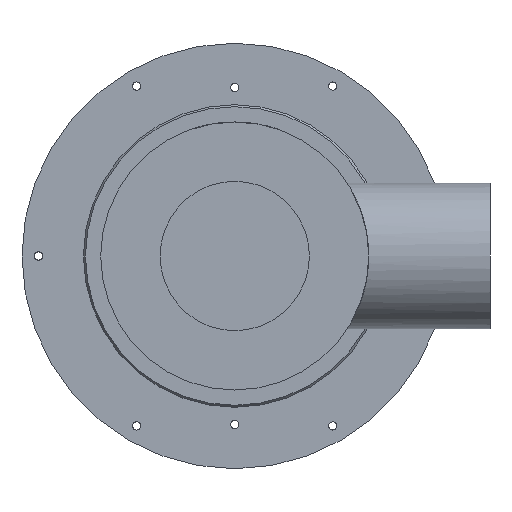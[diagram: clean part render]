
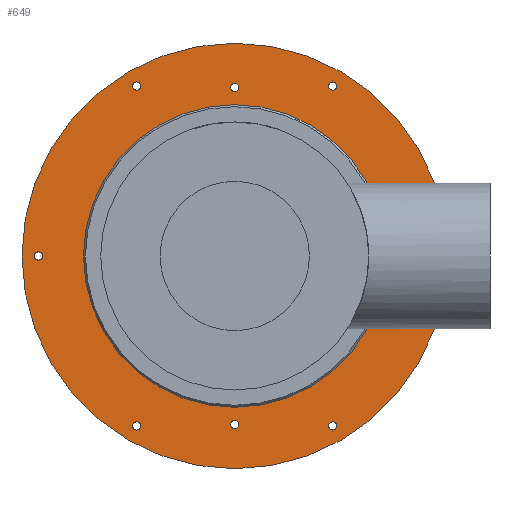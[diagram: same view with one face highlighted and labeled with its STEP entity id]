
A CAD part, front view. The second image highlights one B-rep face of the part: STEP entity #649.
In plain terms, the highlighted planar face has unit normal (0, -1, 0).
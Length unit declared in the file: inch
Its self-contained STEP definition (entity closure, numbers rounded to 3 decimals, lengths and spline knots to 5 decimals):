
#212=CARTESIAN_POINT('',(4.12008,1.04331,0.));
#213=VERTEX_POINT('',#212);
#214=CARTESIAN_POINT('',(4.03543,1.04331,0.0));
#215=DIRECTION('',(0.0,1.0,0.0));
#216=DIRECTION('',(-1.0,0.0,0.0));
#217=AXIS2_PLACEMENT_3D('',#214,#215,#216);
#218=CIRCLE('',#217,0.08465);
#219=EDGE_CURVE('',#213,#213,#218,.T.);
#261=CARTESIAN_POINT('',(2.10236,1.04331,3.49478));
#262=VERTEX_POINT('',#261);
#263=CARTESIAN_POINT('',(2.01772,1.04331,3.49478));
#264=DIRECTION('',(0.0,1.0,0.0));
#265=DIRECTION('',(-1.0,0.0,0.0));
#266=AXIS2_PLACEMENT_3D('',#263,#264,#265);
#267=CIRCLE('',#266,0.08465);
#268=EDGE_CURVE('',#262,#262,#267,.T.);
#310=CARTESIAN_POINT('',(0.08465,1.04331,3.46457));
#311=VERTEX_POINT('',#310);
#312=CARTESIAN_POINT('',(0.0,1.04331,3.46457));
#313=DIRECTION('',(0.0,1.0,0.0));
#314=DIRECTION('',(-1.0,0.0,0.0));
#315=AXIS2_PLACEMENT_3D('',#312,#313,#314);
#316=CIRCLE('',#315,0.08465);
#317=EDGE_CURVE('',#311,#311,#316,.T.);
#359=CARTESIAN_POINT('',(-1.93307,1.04331,3.49478));
#360=VERTEX_POINT('',#359);
#361=CARTESIAN_POINT('',(-2.01772,1.04331,3.49478));
#362=DIRECTION('',(0.0,1.0,0.0));
#363=DIRECTION('',(-1.0,0.0,0.0));
#364=AXIS2_PLACEMENT_3D('',#361,#362,#363);
#365=CIRCLE('',#364,0.08465);
#366=EDGE_CURVE('',#360,#360,#365,.T.);
#408=CARTESIAN_POINT('',(0.08465,1.04331,-3.46457));
#409=VERTEX_POINT('',#408);
#410=CARTESIAN_POINT('',(0.0,1.04331,-3.46457));
#411=DIRECTION('',(0.0,1.0,0.0));
#412=DIRECTION('',(-1.0,0.0,0.0));
#413=AXIS2_PLACEMENT_3D('',#410,#411,#412);
#414=CIRCLE('',#413,0.08465);
#415=EDGE_CURVE('',#409,#409,#414,.T.);
#457=CARTESIAN_POINT('',(-1.93307,1.04331,-3.49478));
#458=VERTEX_POINT('',#457);
#459=CARTESIAN_POINT('',(-2.01772,1.04331,-3.49478));
#460=DIRECTION('',(0.0,1.0,0.0));
#461=DIRECTION('',(-1.0,0.0,0.0));
#462=AXIS2_PLACEMENT_3D('',#459,#460,#461);
#463=CIRCLE('',#462,0.08465);
#464=EDGE_CURVE('',#458,#458,#463,.T.);
#506=CARTESIAN_POINT('',(-3.95079,1.04331,0.));
#507=VERTEX_POINT('',#506);
#508=CARTESIAN_POINT('',(-4.03543,1.04331,0.0));
#509=DIRECTION('',(0.0,1.0,0.0));
#510=DIRECTION('',(-1.0,0.0,0.0));
#511=AXIS2_PLACEMENT_3D('',#508,#509,#510);
#512=CIRCLE('',#511,0.08465);
#513=EDGE_CURVE('',#507,#507,#512,.T.);
#555=CARTESIAN_POINT('',(2.10236,1.04331,-3.49478));
#556=VERTEX_POINT('',#555);
#557=CARTESIAN_POINT('',(2.01772,1.04331,-3.49478));
#558=DIRECTION('',(0.0,1.0,0.0));
#559=DIRECTION('',(-1.0,0.0,0.0));
#560=AXIS2_PLACEMENT_3D('',#557,#558,#559);
#561=CIRCLE('',#560,0.08465);
#562=EDGE_CURVE('',#556,#556,#561,.T.);
#583=CARTESIAN_POINT('',(4.375,1.04331,0.0));
#584=VERTEX_POINT('',#583);
#585=CARTESIAN_POINT('',(0.0,1.04331,0.0));
#586=DIRECTION('',(0.0,-1.0,0.0));
#587=DIRECTION('',(1.0,0.0,0.0));
#588=AXIS2_PLACEMENT_3D('',#585,#586,#587);
#589=CIRCLE('',#588,4.375);
#590=EDGE_CURVE('',#584,#584,#589,.T.);
#606=CARTESIAN_POINT('',(3.74301,1.04331,0.0));
#607=DIRECTION('',(0.0,-1.0,0.0));
#608=DIRECTION('',(0.0,0.0,-1.0));
#609=AXIS2_PLACEMENT_3D('',#606,#607,#608);
#610=PLANE('',#609);
#611=ORIENTED_EDGE('',*,*,#590,.T.);
#612=EDGE_LOOP('',(#611));
#613=FACE_OUTER_BOUND('',#612,.T.);
#614=ORIENTED_EDGE('',*,*,#219,.T.);
#615=EDGE_LOOP('',(#614));
#616=FACE_BOUND('',#615,.T.);
#617=ORIENTED_EDGE('',*,*,#268,.T.);
#618=EDGE_LOOP('',(#617));
#619=FACE_BOUND('',#618,.T.);
#620=ORIENTED_EDGE('',*,*,#317,.T.);
#621=EDGE_LOOP('',(#620));
#622=FACE_BOUND('',#621,.T.);
#623=ORIENTED_EDGE('',*,*,#366,.T.);
#624=EDGE_LOOP('',(#623));
#625=FACE_BOUND('',#624,.T.);
#626=ORIENTED_EDGE('',*,*,#415,.T.);
#627=EDGE_LOOP('',(#626));
#628=FACE_BOUND('',#627,.T.);
#629=ORIENTED_EDGE('',*,*,#464,.T.);
#630=EDGE_LOOP('',(#629));
#631=FACE_BOUND('',#630,.T.);
#632=ORIENTED_EDGE('',*,*,#513,.T.);
#633=EDGE_LOOP('',(#632));
#634=FACE_BOUND('',#633,.T.);
#635=ORIENTED_EDGE('',*,*,#562,.T.);
#636=EDGE_LOOP('',(#635));
#637=FACE_BOUND('',#636,.T.);
#638=CARTESIAN_POINT('',(3.11103,1.04331,0.0));
#639=VERTEX_POINT('',#638);
#640=CARTESIAN_POINT('',(0.0,1.04331,0.0));
#641=DIRECTION('',(0.0,-1.0,0.0));
#642=DIRECTION('',(1.0,0.0,0.0));
#643=AXIS2_PLACEMENT_3D('',#640,#641,#642);
#644=CIRCLE('',#643,3.11103);
#645=EDGE_CURVE('',#639,#639,#644,.T.);
#646=ORIENTED_EDGE('',*,*,#645,.F.);
#647=EDGE_LOOP('',(#646));
#648=FACE_BOUND('',#647,.T.);
#649=ADVANCED_FACE('',(#613,#616,#619,#622,#625,#628,#631,#634,#637,#648),#610,.T.);
